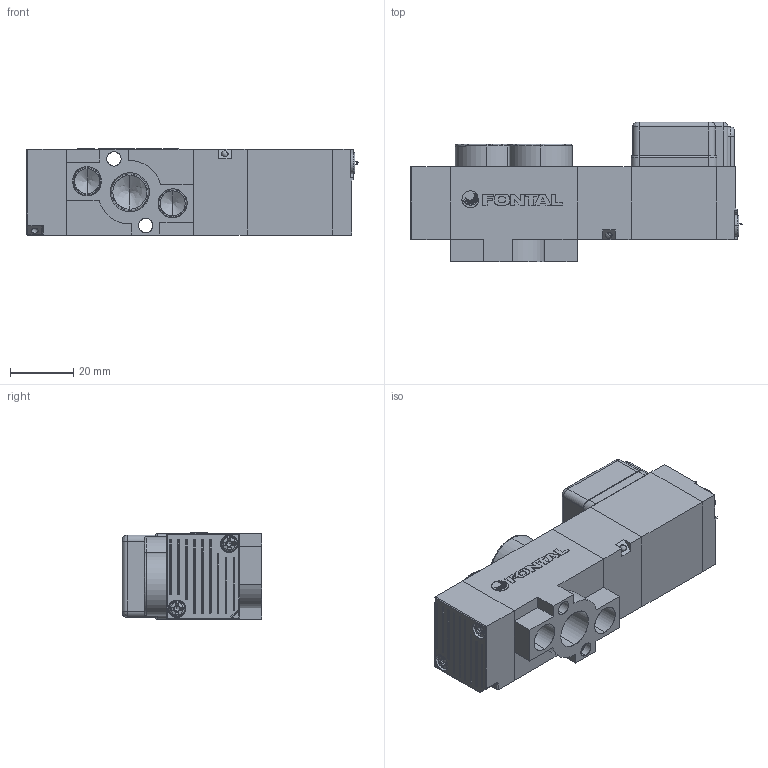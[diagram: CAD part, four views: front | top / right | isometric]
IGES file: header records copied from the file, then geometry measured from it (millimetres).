
Start section: SolidWorks IGES file using analytic representation for surfaces
Global section: file name: D:\Custom\3D繪製\PC\RC06\RCS2406-02-#G##.IGS,1; native system: 5HSolidWorks 2014; preprocessor: SolidWorks 2014; author: Chieh_Lu; date: 150803.214549; units: millimetre
Bounding box: 104.72 x 44 x 27.15 mm (x, y, z)
Surface area: 26824.7 mm2 (no closed solid volume)
Topology: 0 solids, 0 shells, 581 faces, 5547 edges, 5483 vertices
Faces by surface type: bspline 316, revolution 265
